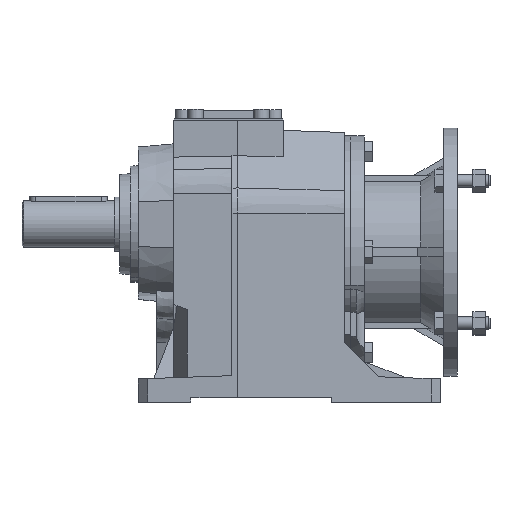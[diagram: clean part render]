
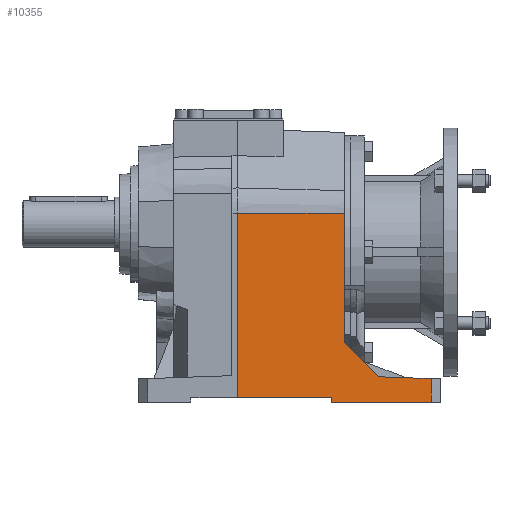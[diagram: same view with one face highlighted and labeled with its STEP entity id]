
A CAD part, top view. The second image highlights one B-rep face of the part: STEP entity #10355.
In plain terms, the highlighted planar face has unit normal (0.035, 0, 0.999) as drawn and (-0.035, 0, -0.999) by its records, which use the part's own axes.
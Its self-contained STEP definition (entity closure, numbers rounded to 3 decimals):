
#252=LINE('',#13700,#1069);
#277=LINE('',#13758,#1094);
#278=LINE('',#13761,#1095);
#279=LINE('',#13762,#1096);
#280=LINE('',#13764,#1097);
#281=LINE('',#13766,#1098);
#282=LINE('',#13768,#1099);
#283=LINE('',#13770,#1100);
#284=LINE('',#13772,#1101);
#1069=VECTOR('',#11538,1000.);
#1094=VECTOR('',#11583,1000.);
#1095=VECTOR('',#11584,1000.);
#1096=VECTOR('',#11585,1000.);
#1097=VECTOR('',#11586,1000.);
#1098=VECTOR('',#11587,1000.);
#1099=VECTOR('',#11588,1000.);
#1100=VECTOR('',#11589,1000.);
#1101=VECTOR('',#11590,1000.);
#1936=ORIENTED_EDGE('',*,*,#4087,.F.);
#1937=ORIENTED_EDGE('',*,*,#4088,.T.);
#1938=ORIENTED_EDGE('',*,*,#4058,.T.);
#1939=ORIENTED_EDGE('',*,*,#4089,.F.);
#1940=ORIENTED_EDGE('',*,*,#4090,.F.);
#1941=ORIENTED_EDGE('',*,*,#4091,.T.);
#1942=ORIENTED_EDGE('',*,*,#4092,.T.);
#1943=ORIENTED_EDGE('',*,*,#4093,.T.);
#1944=ORIENTED_EDGE('',*,*,#4094,.F.);
#4058=EDGE_CURVE('',#5137,#5136,#252,.T.);
#4087=EDGE_CURVE('',#5160,#5161,#277,.T.);
#4088=EDGE_CURVE('',#5160,#5137,#278,.T.);
#4089=EDGE_CURVE('',#5162,#5136,#279,.T.);
#4090=EDGE_CURVE('',#5163,#5162,#280,.T.);
#4091=EDGE_CURVE('',#5163,#5164,#281,.T.);
#4092=EDGE_CURVE('',#5164,#5165,#282,.T.);
#4093=EDGE_CURVE('',#5165,#5166,#283,.T.);
#4094=EDGE_CURVE('',#5161,#5166,#284,.T.);
#5136=VERTEX_POINT('',#13699);
#5137=VERTEX_POINT('',#13701);
#5160=VERTEX_POINT('',#13759);
#5161=VERTEX_POINT('',#13760);
#5162=VERTEX_POINT('',#13763);
#5163=VERTEX_POINT('',#13765);
#5164=VERTEX_POINT('',#13767);
#5165=VERTEX_POINT('',#13769);
#5166=VERTEX_POINT('',#13771);
#6044=EDGE_LOOP('',(#1936,#1937,#1938,#1939,#1940,#1941,#1942,#1943,#1944));
#6591=FACE_BOUND('',#6044,.T.);
#7135=PLANE('',#10834);
#10355=ADVANCED_FACE('',(#6591),#7135,.T.);
#10834=AXIS2_PLACEMENT_3D('',#13757,#11581,#11582);
#11538=DIRECTION('',(-0.999,0.,0.035));
#11581=DIRECTION('',(-0.035,0.,-0.999));
#11582=DIRECTION('',(-0.999,0.,0.035));
#11583=DIRECTION('',(0.999,0.,-0.035));
#11584=DIRECTION('',(0.,-1.,0.));
#11585=DIRECTION('',(0.,-1.,0.));
#11586=DIRECTION('',(-0.999,-0.035,0.035));
#11587=DIRECTION('',(0.707,0.707,-0.025));
#11588=DIRECTION('',(0.,1.,0.));
#11589=DIRECTION('',(0.999,0.,-0.035));
#11590=DIRECTION('',(0.,1.,0.));
#13699=CARTESIAN_POINT('',(-52.004,-97.,-80.635));
#13700=CARTESIAN_POINT('',(73.,-97.,-85.));
#13701=CARTESIAN_POINT('',(12.,-97.,-82.87));
#13757=CARTESIAN_POINT('',(73.,-94.,-85.));
#13758=CARTESIAN_POINT('',(73.,-94.,-85.));
#13759=CARTESIAN_POINT('',(12.,-94.,-82.87));
#13760=CARTESIAN_POINT('',(73.,-94.,-85.));
#13761=CARTESIAN_POINT('',(12.,-94.,-82.87));
#13762=CARTESIAN_POINT('',(-52.004,-58.,-80.635));
#13763=CARTESIAN_POINT('',(-52.004,-81.791,-80.635));
#13764=CARTESIAN_POINT('',(67.043,-77.633,-84.792));
#13765=CARTESIAN_POINT('',(-18.,-80.603,-81.822));
#13766=CARTESIAN_POINT('',(-21.173,-83.776,-81.711));
#13767=CARTESIAN_POINT('',(4.,-58.603,-82.59));
#13768=CARTESIAN_POINT('',(4.,24.973,-82.59));
#13769=CARTESIAN_POINT('',(4.,24.973,-82.59));
#13770=CARTESIAN_POINT('',(73.,24.973,-85.));
#13771=CARTESIAN_POINT('',(73.,24.973,-85.));
#13772=CARTESIAN_POINT('',(73.,-94.,-85.));
